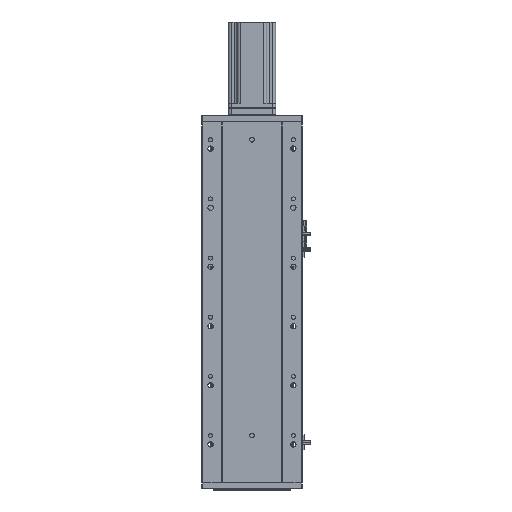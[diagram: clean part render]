
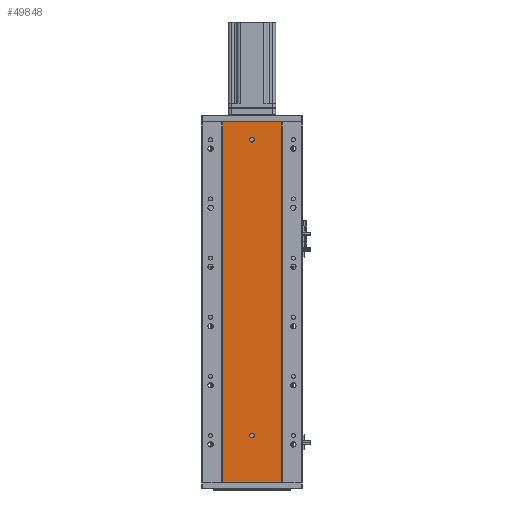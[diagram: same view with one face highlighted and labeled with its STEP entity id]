
A CAD part, front view. The second image highlights one B-rep face of the part: STEP entity #49848.
In plain terms, the highlighted planar face has unit normal (0, -1, 0).
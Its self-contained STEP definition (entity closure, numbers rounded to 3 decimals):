
#655 = CARTESIAN_POINT ( 'NONE',  ( 0., 79.476, 610. ) ) ;
#2103 = DIRECTION ( 'NONE',  ( 0., 0., -1. ) ) ;
#5275 = CARTESIAN_POINT ( 'NONE',  ( 185.97, 79.476, 406.667 ) ) ;
#6850 = CARTESIAN_POINT ( 'NONE',  ( 86.97, 79.476, 0. ) ) ;
#8503 = CARTESIAN_POINT ( 'NONE',  ( 136.47, 79.476, 84. ) ) ;
#8595 = AXIS2_PLACEMENT_3D ( 'NONE', #655, #21318, #59035 ) ;
#8671 = EDGE_CURVE ( 'NONE', #50963, #27222, #22045, .T. ) ;
#8698 = VERTEX_POINT ( 'NONE', #33871 ) ;
#9300 = ORIENTED_EDGE ( 'NONE', *, *, #49233, .F. ) ;
#10194 = DIRECTION ( 'NONE',  ( 0., 0., -1. ) ) ;
#10774 = B_SPLINE_CURVE_WITH_KNOTS ( 'NONE', 3,
 ( #37472, #5275, #52547, #16173 ),
 .UNSPECIFIED., .F., .F.,
 ( 4, 4 ),
 ( 0., 1. ),
 .UNSPECIFIED. ) ;
#12958 = EDGE_CURVE ( 'NONE', #35152, #34497, #15876, .T. ) ;
#13172 = CIRCLE ( 'NONE', #19673, 4. ) ;
#13225 = DIRECTION ( 'NONE',  ( 0., -1., 0. ) ) ;
#13489 = CARTESIAN_POINT ( 'NONE',  ( 185.97, 79.476, 610. ) ) ;
#14024 = ORIENTED_EDGE ( 'NONE', *, *, #54839, .F. ) ;
#14706 = EDGE_LOOP ( 'NONE', ( #63852, #57151 ) ) ;
#15360 = DIRECTION ( 'NONE',  ( 0., 0., -1. ) ) ;
#15876 = B_SPLINE_CURVE_WITH_KNOTS ( 'NONE', 3,
 ( #22413, #59209, #21952, #6850 ),
 .UNSPECIFIED., .F., .F.,
 ( 4, 4 ),
 ( 0., 1. ),
 .UNSPECIFIED. ) ;
#15938 = EDGE_LOOP ( 'NONE', ( #56990, #30078, #53966, #20340 ) ) ;
#16173 = CARTESIAN_POINT ( 'NONE',  ( 185.97, 79.476, 0. ) ) ;
#16863 = VECTOR ( 'NONE', #44629, 1000. ) ;
#16891 = EDGE_CURVE ( 'NONE', #35152, #44970, #32639, .T. ) ;
#17509 = EDGE_CURVE ( 'NONE', #44970, #49111, #10774, .T. ) ;
#19673 = AXIS2_PLACEMENT_3D ( 'NONE', #30929, #67860, #15360 ) ;
#20173 = VERTEX_POINT ( 'NONE', #27494 ) ;
#20340 = ORIENTED_EDGE ( 'NONE', *, *, #12958, .T. ) ;
#21318 = DIRECTION ( 'NONE',  ( 0., 1., 0. ) ) ;
#21952 = CARTESIAN_POINT ( 'NONE',  ( 86.97, 79.476, 203.333 ) ) ;
#22045 = CIRCLE ( 'NONE', #22722, 4. ) ;
#22098 = DIRECTION ( 'NONE',  ( 0., -1., 0. ) ) ;
#22413 = CARTESIAN_POINT ( 'NONE',  ( 86.97, 79.476, 610. ) ) ;
#22722 = AXIS2_PLACEMENT_3D ( 'NONE', #44688, #13225, #2103 ) ;
#23620 = AXIS2_PLACEMENT_3D ( 'NONE', #52817, #31318, #10194 ) ;
#27222 = VERTEX_POINT ( 'NONE', #8503 ) ;
#27494 = CARTESIAN_POINT ( 'NONE',  ( 136.47, 79.476, 584. ) ) ;
#30078 = ORIENTED_EDGE ( 'NONE', *, *, #17509, .F. ) ;
#30929 = CARTESIAN_POINT ( 'NONE',  ( 136.47, 79.476, 580. ) ) ;
#31286 = EDGE_CURVE ( 'NONE', #34497, #49111, #48485, .T. ) ;
#31318 = DIRECTION ( 'NONE',  ( 0., -1., 0. ) ) ;
#31888 = DIRECTION ( 'NONE',  ( 1., 0., 0. ) ) ;
#32437 = PLANE ( 'NONE',  #8595 ) ;
#32639 = LINE ( 'NONE', #65234, #16863 ) ;
#32948 = CARTESIAN_POINT ( 'NONE',  ( 136.47, 79.476, 76. ) ) ;
#33871 = CARTESIAN_POINT ( 'NONE',  ( 136.47, 79.476, 576. ) ) ;
#34497 = VERTEX_POINT ( 'NONE', #50933 ) ;
#35152 = VERTEX_POINT ( 'NONE', #57341 ) ;
#37472 = CARTESIAN_POINT ( 'NONE',  ( 185.97, 79.476, 610. ) ) ;
#43125 = DIRECTION ( 'NONE',  ( 0., 0., -1. ) ) ;
#43132 = CIRCLE ( 'NONE', #52722, 4. ) ;
#44629 = DIRECTION ( 'NONE',  ( 1., 0., 0. ) ) ;
#44688 = CARTESIAN_POINT ( 'NONE',  ( 136.47, 79.476, 80. ) ) ;
#44970 = VERTEX_POINT ( 'NONE', #13489 ) ;
#47029 = FACE_OUTER_BOUND ( 'NONE', #15938, .T. ) ;
#48299 = EDGE_CURVE ( 'NONE', #27222, #50963, #48929, .T. ) ;
#48485 = LINE ( 'NONE', #58034, #57609 ) ;
#48929 = CIRCLE ( 'NONE', #23620, 4. ) ;
#49111 = VERTEX_POINT ( 'NONE', #66721 ) ;
#49233 = EDGE_CURVE ( 'NONE', #8698, #20173, #13172, .T. ) ;
#49848 = ADVANCED_FACE ( 'NONE', ( #64422, #50371, #47029 ), #32437, .F. ) ;
#50371 = FACE_BOUND ( 'NONE', #14706, .T. ) ;
#50933 = CARTESIAN_POINT ( 'NONE',  ( 86.97, 79.476, 0. ) ) ;
#50963 = VERTEX_POINT ( 'NONE', #32948 ) ;
#52547 = CARTESIAN_POINT ( 'NONE',  ( 185.97, 79.476, 203.333 ) ) ;
#52722 = AXIS2_PLACEMENT_3D ( 'NONE', #59350, #22098, #43125 ) ;
#52817 = CARTESIAN_POINT ( 'NONE',  ( 136.47, 79.476, 80. ) ) ;
#53966 = ORIENTED_EDGE ( 'NONE', *, *, #16891, .F. ) ;
#54839 = EDGE_CURVE ( 'NONE', #20173, #8698, #43132, .T. ) ;
#56990 = ORIENTED_EDGE ( 'NONE', *, *, #31286, .T. ) ;
#57151 = ORIENTED_EDGE ( 'NONE', *, *, #48299, .F. ) ;
#57341 = CARTESIAN_POINT ( 'NONE',  ( 86.97, 79.476, 610. ) ) ;
#57609 = VECTOR ( 'NONE', #31888, 1000. ) ;
#58034 = CARTESIAN_POINT ( 'NONE',  ( 0., 79.476, 0. ) ) ;
#59035 = DIRECTION ( 'NONE',  ( 0., 0., 1. ) ) ;
#59209 = CARTESIAN_POINT ( 'NONE',  ( 86.97, 79.476, 406.667 ) ) ;
#59350 = CARTESIAN_POINT ( 'NONE',  ( 136.47, 79.476, 580. ) ) ;
#63852 = ORIENTED_EDGE ( 'NONE', *, *, #8671, .F. ) ;
#64422 = FACE_BOUND ( 'NONE', #68279, .T. ) ;
#65234 = CARTESIAN_POINT ( 'NONE',  ( 0., 79.476, 610. ) ) ;
#66721 = CARTESIAN_POINT ( 'NONE',  ( 185.97, 79.476, 0. ) ) ;
#67860 = DIRECTION ( 'NONE',  ( 0., -1., 0. ) ) ;
#68279 = EDGE_LOOP ( 'NONE', ( #9300, #14024 ) ) ;
